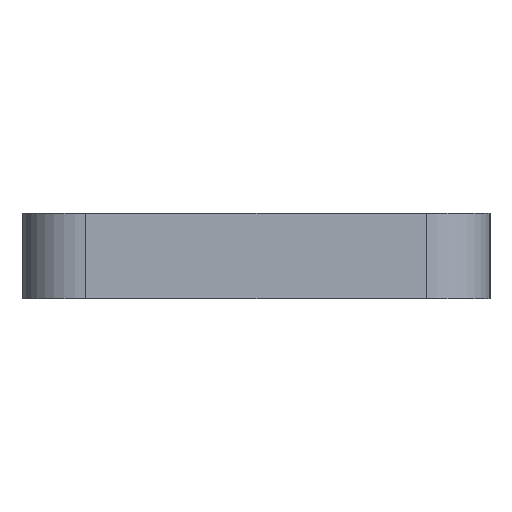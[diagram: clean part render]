
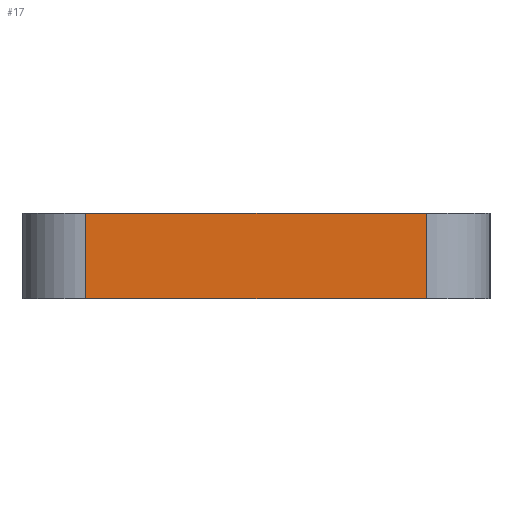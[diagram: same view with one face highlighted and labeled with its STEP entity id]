
A CAD part, left-side view. The second image highlights one B-rep face of the part: STEP entity #17.
In plain terms, the highlighted planar face has unit normal (-1, 0, 0).
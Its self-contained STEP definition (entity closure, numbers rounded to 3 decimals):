
#17 = ADVANCED_FACE('',(#18),#32,.F.);
#18 = FACE_BOUND('',#19,.F.);
#19 = EDGE_LOOP('',(#20,#55,#83,#111));
#20 = ORIENTED_EDGE('',*,*,#21,.F.);
#21 = EDGE_CURVE('',#22,#24,#26,.T.);
#22 = VERTEX_POINT('',#23);
#23 = CARTESIAN_POINT('',(-87.,-8.,4.));
#24 = VERTEX_POINT('',#25);
#25 = CARTESIAN_POINT('',(-87.,8.,4.));
#26 = SURFACE_CURVE('',#27,(#31,#43),.PCURVE_S1.);
#27 = LINE('',#28,#29);
#28 = CARTESIAN_POINT('',(-87.,-11.,4.));
#29 = VECTOR('',#30,1.);
#30 = DIRECTION('',(0.,1.,0.));
#31 = PCURVE('',#32,#37);
#32 = PLANE('',#33);
#33 = AXIS2_PLACEMENT_3D('',#34,#35,#36);
#34 = CARTESIAN_POINT('',(-87.,-11.,0.));
#35 = DIRECTION('',(1.,0.,0.));
#36 = DIRECTION('',(0.,0.,1.));
#37 = DEFINITIONAL_REPRESENTATION('',(#38),#42);
#38 = LINE('',#39,#40);
#39 = CARTESIAN_POINT('',(4.,0.));
#40 = VECTOR('',#41,1.);
#41 = DIRECTION('',(0.,-1.));
#42 = ( GEOMETRIC_REPRESENTATION_CONTEXT(2) 
PARAMETRIC_REPRESENTATION_CONTEXT() REPRESENTATION_CONTEXT('2D SPACE',''
  ) );
#43 = PCURVE('',#44,#49);
#44 = PLANE('',#45);
#45 = AXIS2_PLACEMENT_3D('',#46,#47,#48);
#46 = CARTESIAN_POINT('',(-87.,-11.,4.));
#47 = DIRECTION('',(0.,0.,1.));
#48 = DIRECTION('',(1.,0.,0.));
#49 = DEFINITIONAL_REPRESENTATION('',(#50),#54);
#50 = LINE('',#51,#52);
#51 = CARTESIAN_POINT('',(0.,0.));
#52 = VECTOR('',#53,1.);
#53 = DIRECTION('',(0.,1.));
#54 = ( GEOMETRIC_REPRESENTATION_CONTEXT(2) 
PARAMETRIC_REPRESENTATION_CONTEXT() REPRESENTATION_CONTEXT('2D SPACE',''
  ) );
#55 = ORIENTED_EDGE('',*,*,#56,.F.);
#56 = EDGE_CURVE('',#57,#22,#59,.T.);
#57 = VERTEX_POINT('',#58);
#58 = CARTESIAN_POINT('',(-87.,-8.,0.));
#59 = SURFACE_CURVE('',#60,(#64,#71),.PCURVE_S1.);
#60 = LINE('',#61,#62);
#61 = CARTESIAN_POINT('',(-87.,-8.,0.));
#62 = VECTOR('',#63,1.);
#63 = DIRECTION('',(0.,0.,1.));
#64 = PCURVE('',#32,#65);
#65 = DEFINITIONAL_REPRESENTATION('',(#66),#70);
#66 = LINE('',#67,#68);
#67 = CARTESIAN_POINT('',(0.,-3.));
#68 = VECTOR('',#69,1.);
#69 = DIRECTION('',(1.,0.));
#70 = ( GEOMETRIC_REPRESENTATION_CONTEXT(2) 
PARAMETRIC_REPRESENTATION_CONTEXT() REPRESENTATION_CONTEXT('2D SPACE',''
  ) );
#71 = PCURVE('',#72,#77);
#72 = CYLINDRICAL_SURFACE('',#73,3.);
#73 = AXIS2_PLACEMENT_3D('',#74,#75,#76);
#74 = CARTESIAN_POINT('',(-84.,-8.,0.));
#75 = DIRECTION('',(0.,0.,1.));
#76 = DIRECTION('',(-1.,-0.,0.));
#77 = DEFINITIONAL_REPRESENTATION('',(#78),#82);
#78 = LINE('',#79,#80);
#79 = CARTESIAN_POINT('',(0.,0.));
#80 = VECTOR('',#81,1.);
#81 = DIRECTION('',(0.,1.));
#82 = ( GEOMETRIC_REPRESENTATION_CONTEXT(2) 
PARAMETRIC_REPRESENTATION_CONTEXT() REPRESENTATION_CONTEXT('2D SPACE',''
  ) );
#83 = ORIENTED_EDGE('',*,*,#84,.T.);
#84 = EDGE_CURVE('',#57,#85,#87,.T.);
#85 = VERTEX_POINT('',#86);
#86 = CARTESIAN_POINT('',(-87.,8.,0.));
#87 = SURFACE_CURVE('',#88,(#92,#99),.PCURVE_S1.);
#88 = LINE('',#89,#90);
#89 = CARTESIAN_POINT('',(-87.,-11.,0.));
#90 = VECTOR('',#91,1.);
#91 = DIRECTION('',(0.,1.,0.));
#92 = PCURVE('',#32,#93);
#93 = DEFINITIONAL_REPRESENTATION('',(#94),#98);
#94 = LINE('',#95,#96);
#95 = CARTESIAN_POINT('',(0.,0.));
#96 = VECTOR('',#97,1.);
#97 = DIRECTION('',(0.,-1.));
#98 = ( GEOMETRIC_REPRESENTATION_CONTEXT(2) 
PARAMETRIC_REPRESENTATION_CONTEXT() REPRESENTATION_CONTEXT('2D SPACE',''
  ) );
#99 = PCURVE('',#100,#105);
#100 = PLANE('',#101);
#101 = AXIS2_PLACEMENT_3D('',#102,#103,#104);
#102 = CARTESIAN_POINT('',(-87.,-11.,0.));
#103 = DIRECTION('',(0.,0.,1.));
#104 = DIRECTION('',(1.,0.,0.));
#105 = DEFINITIONAL_REPRESENTATION('',(#106),#110);
#106 = LINE('',#107,#108);
#107 = CARTESIAN_POINT('',(0.,0.));
#108 = VECTOR('',#109,1.);
#109 = DIRECTION('',(0.,1.));
#110 = ( GEOMETRIC_REPRESENTATION_CONTEXT(2) 
PARAMETRIC_REPRESENTATION_CONTEXT() REPRESENTATION_CONTEXT('2D SPACE',''
  ) );
#111 = ORIENTED_EDGE('',*,*,#112,.T.);
#112 = EDGE_CURVE('',#85,#24,#113,.T.);
#113 = SURFACE_CURVE('',#114,(#118,#125),.PCURVE_S1.);
#114 = LINE('',#115,#116);
#115 = CARTESIAN_POINT('',(-87.,8.,0.));
#116 = VECTOR('',#117,1.);
#117 = DIRECTION('',(0.,0.,1.));
#118 = PCURVE('',#32,#119);
#119 = DEFINITIONAL_REPRESENTATION('',(#120),#124);
#120 = LINE('',#121,#122);
#121 = CARTESIAN_POINT('',(0.,-19.));
#122 = VECTOR('',#123,1.);
#123 = DIRECTION('',(1.,0.));
#124 = ( GEOMETRIC_REPRESENTATION_CONTEXT(2) 
PARAMETRIC_REPRESENTATION_CONTEXT() REPRESENTATION_CONTEXT('2D SPACE',''
  ) );
#125 = PCURVE('',#126,#131);
#126 = CYLINDRICAL_SURFACE('',#127,3.);
#127 = AXIS2_PLACEMENT_3D('',#128,#129,#130);
#128 = CARTESIAN_POINT('',(-84.,8.,0.));
#129 = DIRECTION('',(0.,0.,1.));
#130 = DIRECTION('',(-1.,-0.,0.));
#131 = DEFINITIONAL_REPRESENTATION('',(#132),#136);
#132 = LINE('',#133,#134);
#133 = CARTESIAN_POINT('',(-0.,0.));
#134 = VECTOR('',#135,1.);
#135 = DIRECTION('',(-0.,1.));
#136 = ( GEOMETRIC_REPRESENTATION_CONTEXT(2) 
PARAMETRIC_REPRESENTATION_CONTEXT() REPRESENTATION_CONTEXT('2D SPACE',''
  ) );
